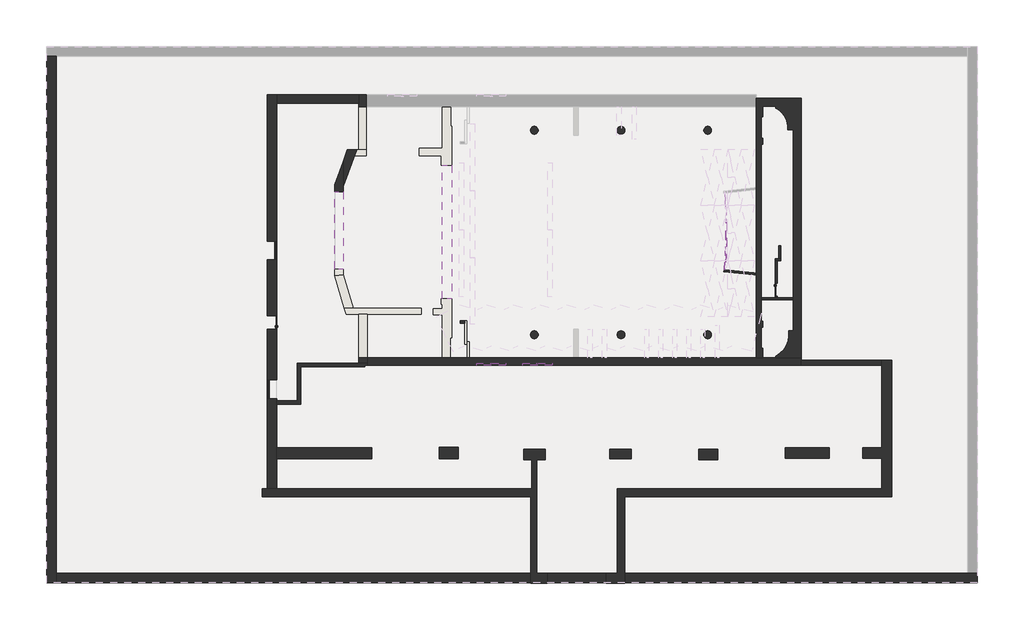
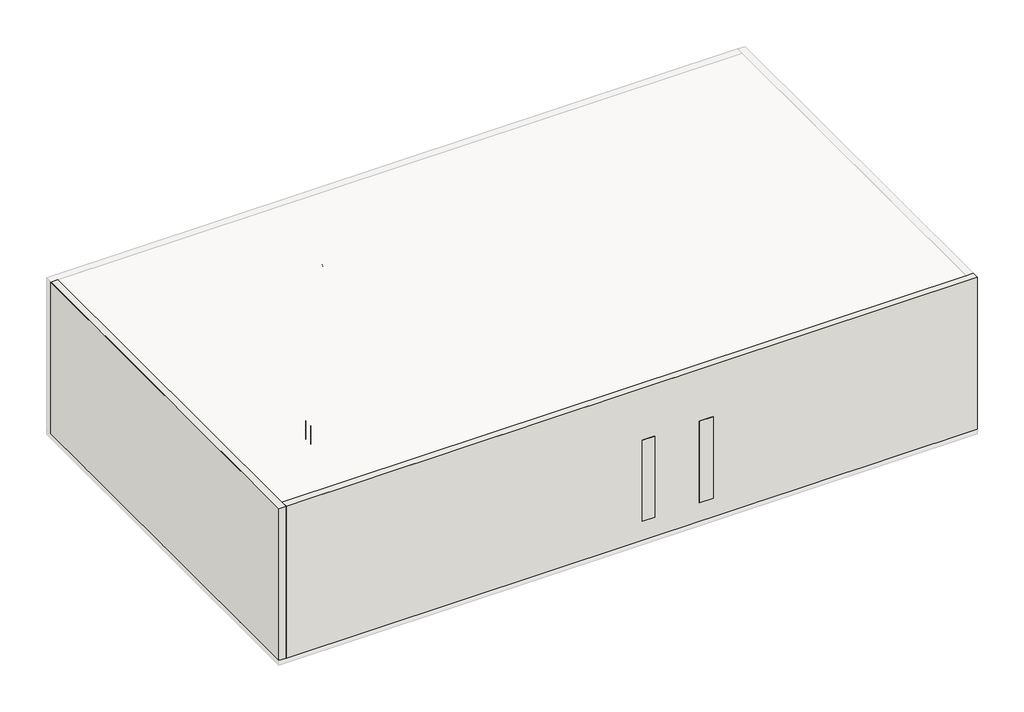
# One storey, part 1 of 2: 26 walls, 15 members, 6 doors, 5 plates.
"""IFC4 building model written with IfcOpenShell, lengths in millimetres."""

from ifc_helpers import new_model, si_unit, frame, origin, origin_with_axes, place, context, project, spatial, polyline, outline, extrude, faceted_brep, transform, mapped, element, save
from components import door_93136e83, door_cc279266, door_110_110_x_220_0e20b769, door_90_50_0fd4b594, door_90_50_461a16cf, rectangular_mullion_50mm_x_65mm_85f5c3ba, rectangular_mullion_50mm_x_65mm_dd78f4de, rectangular_mullion_50mm_x_65mm_ce025465, rectangular_mullion_50mm_x_65mm_8040be0b, rectangular_mullion_50mm_x_65mm_674574ef, rectangular_mullion_50mm_x_65mm_76db42fe, system_panel_glazed_0dd6046c, system_panel_glazed_ee4c52bc, system_panel_glazed_600cb2cb, system_panel_glazed_74924e97, system_panel_glazed_64a0f904, wall_78942bb0, walls_1_walls_1_f35c03d9, walls_3_walls_3_43b07a90

model = new_model("IFC4")

# Units and contexts
model_context = context("Model", 3, world=origin())
ifc_project = project(units=[si_unit("LENGTHUNIT", "METRE", prefix="MILLI")], contexts=[model_context])

# Site, building, storey
site = spatial("IfcSite", under=ifc_project)
building = spatial("IfcBuilding", under=site)
storey = spatial("IfcBuildingStorey", under=building, Name="0 NISKI PARTER", Elevation=-1240.0)

# Doors
placement = place(None, origin())
door_shape = door_93136e83(model_context)
element("IfcDoor", 1, ObjectType="DRZWI DO ZESTAWIENIA : Dw_biura_90x220cm", at=placement, inside=storey, context=model_context, shape_type="MappedRepresentation", body=[
    mapped(door_shape, transform((156105.6979089, 53115.8005963, -1240.0), x_axis=(0.0, -1.0, 0.0), y_axis=(1.0, 0.0, 0.0), z_axis=(0.0, 0.0, 1.0))),
])
door_2_shape = door_cc279266(model_context)
element("IfcDoor", 2, ObjectType="DRZWI DO ZESTAWIENIA : Dw_biura_90x220cm", at=placement, inside=storey, context=model_context, shape_type="MappedRepresentation", body=[
    mapped(door_2_shape, transform((118387.0479089, 50670.8005963, -1240.0), x_axis=(0.0, 1.0, 0.0), y_axis=(-1.0, 0.0, 0.0), z_axis=(0.0, 0.0, 1.0))),
])
door_110_110_x_220_shape = door_110_110_x_220_0e20b769(model_context)
element("IfcDoor", 3, ObjectType="Door_Matrix 70_Double_Veka_Double Glazing_Outward Opening_Frame 67mm : 110 + 110 X 220", at=placement, inside=storey, context=model_context, shape_type="MappedRepresentation", body=[
    mapped(door_110_110_x_220_shape, transform((134790.8729089, 47740.8005963, 0.0), x_axis=(-1.0, 0.0, 2.899180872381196e-11), y_axis=(0.0, -1.0, 0.0), z_axis=(0.0, 0.0, 1.0))),
])
element("IfcDoor", 4, ObjectType="Door_Matrix 70_Double_Veka_Double Glazing_Outward Opening_Frame 67mm : 110 + 110 X 220", at=placement, inside=storey, context=model_context, shape_type="MappedRepresentation", body=[
    mapped(door_110_110_x_220_shape, transform((138253.8729089, 47740.8005963, 0.0), x_axis=(-1.0, 0.0, 2.899180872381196e-11), y_axis=(0.0, -1.0, 0.0), z_axis=(0.0, 0.0, 1.0))),
])
door_90_50_shape = door_90_50_0fd4b594(model_context)
element("IfcDoor", 5, ObjectType="Door_Matrix 70_Double_Veka_Double Glazing_Outward Opening_Frame 67mm : 90 + 50", at=placement, inside=storey, context=model_context, shape_type="MappedRepresentation", body=[
    mapped(door_90_50_shape, transform((118383.8729089, 56065.8005963, -1240.0), x_axis=(0.0, 1.0, 0.0), y_axis=(-1.0, 0.0, 0.0), z_axis=(0.0, 0.0, 1.0))),
])
door_90_50_2_shape = door_90_50_461a16cf(model_context)
element("IfcDoor", 6, ObjectType="Door_Matrix 70_Double_Veka_Double Glazing_Outward Opening_Frame 67mm : 90 + 50", at=placement, inside=storey, context=model_context, shape_type="MappedRepresentation", body=[
    mapped(door_90_50_2_shape, transform((118383.8729089, 45670.8005963, -1240.0), x_axis=(0.0, 1.0, 0.0), y_axis=(-1.0, 0.0, 0.0), z_axis=(0.0, 0.0, 1.0))),
])

# Members
rectangular_mullion_50mm_x_65mm_shape = rectangular_mullion_50mm_x_65mm_85f5c3ba(model_context)
element("IfcMember", 7, ObjectType="Rectangular Mullion : 50mm x 65mm", at=placement, inside=storey, context=model_context, shape_type="MappedRepresentation", body=[
    mapped(rectangular_mullion_50mm_x_65mm_shape, transform((152343.4204401, 59271.064427, 8800.0), x_axis=(0.0, 0.0, 1.0), y_axis=(-0.996686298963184, -0.08134138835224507, 0.0), z_axis=(0.08134138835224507, -0.996686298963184, 0.0))),
])
rectangular_mullion_50mm_x_65mm_2_shape = rectangular_mullion_50mm_x_65mm_dd78f4de(model_context)
element("IfcMember", 8, ObjectType="Rectangular Mullion : 50mm x 65mm", at=placement, inside=storey, context=model_context, shape_type="MappedRepresentation", body=[
    mapped(rectangular_mullion_50mm_x_65mm_2_shape, transform((152382.5170965, 58218.1139875, 8800.0), x_axis=(0.0, 0.0, 1.0), y_axis=(-0.9993908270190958, -0.034899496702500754, 0.0), z_axis=(0.034899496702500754, -0.9993908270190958, 0.0))),
])
rectangular_mullion_50mm_x_65mm_3_shape = rectangular_mullion_50mm_x_65mm_ce025465(model_context)
element("IfcMember", 9, ObjectType="Rectangular Mullion : 50mm x 65mm", at=placement, inside=storey, context=model_context, shape_type="MappedRepresentation", body=[
    mapped(rectangular_mullion_50mm_x_65mm_3_shape, transform((152384.2620713, 56963.6598902, 8800.0), x_axis=(0.0, 0.0, 1.0), y_axis=(-1.0, 0.0, 0.0), z_axis=(0.0, -1.0, 0.0))),
])
element("IfcMember", 10, ObjectType="Rectangular Mullion : 50mm x 65mm", at=placement, inside=storey, context=model_context, shape_type="MappedRepresentation", body=[
    mapped(rectangular_mullion_50mm_x_65mm_3_shape, transform((152384.2620713, 58118.1444462, 3620.0), x_axis=(0.0, 0.0, -1.0), y_axis=(-1.0, 0.0, 0.0), z_axis=(0.0, 1.0, 0.0))),
])
rectangular_mullion_50mm_x_65mm_4_shape = rectangular_mullion_50mm_x_65mm_8040be0b(model_context)
element("IfcMember", 11, ObjectType="Rectangular Mullion : 50mm x 65mm", at=placement, inside=storey, context=model_context, shape_type="MappedRepresentation", body=[
    mapped(rectangular_mullion_50mm_x_65mm_4_shape, transform((152345.6712309, 55808.5628082, 8800.0), x_axis=(0.0, 0.0, 1.0), y_axis=(-0.9993908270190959, 0.03489949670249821, 0.0), z_axis=(-0.0348994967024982, -0.9993908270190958, 0.0))),
])
element("IfcMember", 12, ObjectType="Rectangular Mullion : 50mm x 65mm", at=placement, inside=storey, context=model_context, shape_type="MappedRepresentation", body=[
    mapped(rectangular_mullion_50mm_x_65mm_4_shape, transform((152382.5170965, 56863.6903488, 3620.0), x_axis=(0.0, 0.0, -1.0), y_axis=(-0.9993908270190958, 0.03489949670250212, 0.0), z_axis=(0.034899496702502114, 0.9993908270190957, 0.0))),
])
rectangular_mullion_50mm_x_65mm_5_shape = rectangular_mullion_50mm_x_65mm_674574ef(model_context)
element("IfcMember", 13, ObjectType="Rectangular Mullion : 50mm x 65mm", at=placement, inside=storey, context=model_context, shape_type="MappedRepresentation", body=[
    mapped(rectangular_mullion_50mm_x_65mm_5_shape, transform((152267.9302997, 54671.800459, 8800.0), x_axis=(0.0, 0.0, 1.0), y_axis=(-0.9975640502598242, 0.06975647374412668, 0.0), z_axis=(-0.06975647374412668, -0.9975640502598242, 0.0))),
])
element("IfcMember", 14, ObjectType="Rectangular Mullion : 50mm x 65mm", at=placement, inside=storey, context=model_context, shape_type="MappedRepresentation", body=[
    mapped(rectangular_mullion_50mm_x_65mm_5_shape, transform((152340.4384323, 55708.7150644, 3620.0), x_axis=(0.0, 0.0, -1.0), y_axis=(-0.9975640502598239, 0.06975647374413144, 0.0), z_axis=(0.06975647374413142, 0.9975640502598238, 0.0))),
])
rectangular_mullion_50mm_x_65mm_6_shape = rectangular_mullion_50mm_x_65mm_76db42fe(model_context)
element("IfcMember", 15, ObjectType="Rectangular Mullion : 50mm x 65mm", at=placement, inside=storey, context=model_context, shape_type="MappedRepresentation", body=[
    mapped(rectangular_mullion_50mm_x_65mm_6_shape, transform((152384.2620713, 58168.1444462, 3620.0), x_axis=(0.034899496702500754, -0.9993908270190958, 0.0), y_axis=(-0.9993908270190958, -0.034899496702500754, 0.0), z_axis=(0.0, 0.0, -1.0))),
])
element("IfcMember", 16, ObjectType="Rectangular Mullion : 50mm x 65mm", at=placement, inside=storey, context=model_context, shape_type="MappedRepresentation", body=[
    mapped(rectangular_mullion_50mm_x_65mm_6_shape, transform((152384.2620713, 56913.6598902, 3620.0), x_axis=(0.0, -1.0, 0.0), y_axis=(-1.0, 0.0, 0.0), z_axis=(0.0, 0.0, -1.0))),
])
element("IfcMember", 17, ObjectType="Rectangular Mullion : 50mm x 65mm", at=placement, inside=storey, context=model_context, shape_type="MappedRepresentation", body=[
    mapped(rectangular_mullion_50mm_x_65mm_6_shape, transform((152343.926256, 55758.5932669, 3620.0), x_axis=(-0.03489949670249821, -0.9993908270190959, 0.0), y_axis=(-0.9993908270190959, 0.03489949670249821, 0.0), z_axis=(0.0, 0.0, -1.0))),
])
element("IfcMember", 18, ObjectType="Rectangular Mullion : 50mm x 65mm", at=placement, inside=storey, context=model_context, shape_type="MappedRepresentation", body=[
    mapped(rectangular_mullion_50mm_x_65mm_6_shape, transform((152264.442476, 54621.9222565, 3620.0), x_axis=(-0.06975647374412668, -0.9975640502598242, 0.0), y_axis=(-0.9975640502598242, 0.06975647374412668, 0.0), z_axis=(0.0, 0.0, -1.0))),
])
element("IfcMember", 19, ObjectType="Rectangular Mullion : 50mm x 65mm", at=placement, inside=storey, context=model_context, shape_type="MappedRepresentation", body=[
    mapped(rectangular_mullion_50mm_x_65mm_6_shape, transform((152384.2620713, 58168.1444462, 8800.0), x_axis=(0.0, 1.0, 0.0), y_axis=(-1.0, 0.0, 0.0), z_axis=(0.0, 0.0, 1.0))),
])
element("IfcMember", 20, ObjectType="Rectangular Mullion : 50mm x 65mm", at=placement, inside=storey, context=model_context, shape_type="MappedRepresentation", body=[
    mapped(rectangular_mullion_50mm_x_65mm_6_shape, transform((152384.2620713, 56913.6598902, 8800.0), x_axis=(0.03489949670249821, 0.9993908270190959, 0.0), y_axis=(-0.9993908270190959, 0.03489949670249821, 0.0), z_axis=(0.0, 0.0, 1.0))),
])
element("IfcMember", 21, ObjectType="Rectangular Mullion : 50mm x 65mm", at=placement, inside=storey, context=model_context, shape_type="MappedRepresentation", body=[
    mapped(rectangular_mullion_50mm_x_65mm_6_shape, transform((152343.926256, 55758.5932669, 8800.0), x_axis=(0.06975647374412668, 0.9975640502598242, 0.0), y_axis=(-0.9975640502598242, 0.06975647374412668, 0.0), z_axis=(0.0, 0.0, 1.0))),
])

# Plates
system_panel_glazed_shape = system_panel_glazed_0dd6046c(model_context)
element("IfcPlate", 22, ObjectType="System Panel : Glazed", at=placement, inside=storey, context=model_context, shape_type="MappedRepresentation", body=[
    mapped(system_panel_glazed_shape, transform((152304.184366, 55190.2577617, 3670.0), x_axis=(-0.06975647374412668, -0.9975640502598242, 0.0), y_axis=(0.9975640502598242, -0.06975647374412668, 0.0), z_axis=(0.0, 0.0, 1.0))),
])
system_panel_glazed_2_shape = system_panel_glazed_ee4c52bc(model_context)
element("IfcPlate", 23, ObjectType="System Panel : Glazed", at=placement, inside=storey, context=model_context, shape_type="MappedRepresentation", body=[
    mapped(system_panel_glazed_2_shape, transform((152364.0941637, 56336.1265785, 3670.0), x_axis=(-0.03489949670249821, -0.9993908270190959, 0.0), y_axis=(0.9993908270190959, -0.03489949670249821, 0.0), z_axis=(0.0, 0.0, 1.0))),
])
system_panel_glazed_3_shape = system_panel_glazed_600cb2cb(model_context)
element("IfcPlate", 24, ObjectType="System Panel : Glazed", at=placement, inside=storey, context=model_context, shape_type="MappedRepresentation", body=[
    mapped(system_panel_glazed_3_shape, transform((152384.2620713, 57540.9021682, 3670.0), x_axis=(0.0, -1.0, 0.0), y_axis=(1.0, 0.0, 0.0), z_axis=(0.0, 0.0, 1.0))),
])
system_panel_glazed_4_shape = system_panel_glazed_74924e97(model_context)
element("IfcPlate", 25, ObjectType="System Panel : Glazed", at=placement, inside=storey, context=model_context, shape_type="MappedRepresentation", body=[
    mapped(system_panel_glazed_4_shape, transform((152365.8747904, 58694.6872791, 3670.0), x_axis=(0.034899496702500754, -0.9993908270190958, 0.0), y_axis=(0.9993908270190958, 0.034899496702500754, 0.0), z_axis=(0.0, 0.0, 1.0))),
])
system_panel_glazed_5_shape = system_panel_glazed_64a0f904(model_context)
element("IfcPlate", 26, ObjectType="System Panel : Glazed", at=placement, inside=storey, context=model_context, shape_type="MappedRepresentation", body=[
    mapped(system_panel_glazed_5_shape, transform((152301.0692518, 59789.9988828, 3670.0), x_axis=(0.08134138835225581, -0.9966862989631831, 0.0), y_axis=(0.9966862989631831, 0.08134138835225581, 0.0), z_axis=(0.0, 0.0, 1.0))),
])

# Walls
wall_shape = wall_78942bb0(model_context)
element("IfcWall", 27, ObjectType="SŁUPY : SŁUPY", at=placement, inside=storey, context=model_context, shape_type="MappedRepresentation", body=[
    mapped(wall_shape, transform((0.0, 0.0, 0.0), x_axis=(1.0, 0.0, 0.0), y_axis=(0.0, 1.0, 0.0), z_axis=(0.0, 0.0, 1.0))),
])
element("IfcWall", 28, ObjectType="SCN_15 cm", at=placement, inside=storey, context=model_context, shape_type="SweptSolid", body=[
    extrude(outline(polyline([(152221.6395041, 54626.294003), (154816.4935023, 54361.2646536), (154801.2523155, 54212.040975), (152206.3983174, 54477.0703245), (152221.6395041, 54626.294003)])), frame((0.0, 0.0, -1240.0), z_axis=(0.0, 0.0, 1.0), x_axis=(1.0, 0.0, 0.0)), (0.0, 0.0, 1.0), 10040.0),
])
element("IfcWall", 29, ObjectType="SCN_15 cm", at=placement, inside=storey, context=model_context, shape_type="SweptSolid", body=[
    extrude(outline(polyline([(49240.8005963, -1240.0), (47745.8005963, -1240.0), (47745.8005963, 8800.0), (49240.8005963, 8800.0), (49240.8005963, 0.0), (48015.8005963, 0.0), (48015.8005963, -500.0), (49240.8005963, -500.0), (49240.8005963, -1240.0)])), frame((133003.8729089, 0.0, 0.0), z_axis=(1.0, 0.0, 0.0), x_axis=(0.0, 1.0, 0.0)), (0.0, 0.0, 1.0), 150.0),
])
element("IfcWall", 30, ObjectType="SCN_15 cm", at=placement, inside=storey, context=model_context, shape_type="Brep", body=[
    faceted_brep([(132973.8729089, 49035.8005963, -1240.0), (132973.8729089, 50780.8005963, -1240.0), (132973.8729089, 50780.8005963, -500.0), (132973.8729089, 49035.8005963, -500.0), (132823.8729089, 50780.8005963, -1240.0), (132823.8729089, 50630.8005963, -1240.0), (132823.8729089, 49035.8005963, -1240.0), (132823.8729089, 49035.8005963, -500.0), (132823.8729089, 50780.8005963, -500.0)], [[[0, 1, 2, 3]], [[4, 5, 6, 7, 8]], [[1, 0, 6, 5, 4]], [[6, 0, 3, 7]], [[1, 4, 8, 2]], [[3, 2, 8, 7]]]),
    faceted_brep([(132973.8729089, 50780.8005963, 8800.0), (132973.8729089, 49035.8005963, 8800.0), (132973.8729089, 49035.8005963, 0.0), (132973.8729089, 50780.8005963, 0.0), (132823.8729089, 49035.8005963, 8800.0), (132823.8729089, 50630.8005963, 8800.0), (132823.8729089, 50780.8005963, 8800.0), (132823.8729089, 50780.8005963, 0.0), (132823.8729089, 49035.8005963, 0.0)], [[[0, 1, 2, 3]], [[4, 5, 6, 7, 8]], [[1, 0, 6, 5, 4]], [[1, 4, 8, 2]], [[6, 0, 3, 7]], [[3, 2, 8, 7]]]),
])
element("IfcWall", 31, ObjectType="SCN_15 cm", at=placement, inside=storey, context=model_context, shape_type="SweptSolid", body=[
    extrude(outline(polyline([(132463.8729089, 50780.8005963), (132823.8729089, 50780.8005963), (132823.8729089, 50630.8005963), (132463.8729089, 50630.8005963), (132463.8729089, 50780.8005963)])), frame((0.0, 0.0, -1240.0), z_axis=(0.0, 0.0, 1.0), x_axis=(1.0, 0.0, 0.0)), (0.0, 0.0, 1.0), 10040.0),
])
element("IfcWall", 32, ObjectType="SCN_15 cm", at=placement, inside=storey, context=model_context, shape_type="Brep", body=[
    faceted_brep([(154808.8729089, 52380.8005963, -1240.0), (157698.8729089, 52380.8005963, -1240.0), (157698.8729089, 52380.8005963, 8800.0), (154808.8729089, 52380.8005963, 8800.0), (154808.8729089, 52530.8005963, -1240.0), (154808.8729089, 52530.8005963, 8800.0), (156033.8729089, 52530.8005963, 8800.0), (156183.8729089, 52530.8005963, 8800.0), (157698.8729089, 52530.8005963, 8800.0), (157698.8729089, 52530.8005963, -1240.0), (156183.8729089, 52530.8005963, -1240.0), (156033.8729089, 52530.8005963, -1240.0)], [[[0, 1, 2, 3]], [[4, 5, 6, 7, 8, 9, 10, 11]], [[1, 0, 4, 11, 10, 9]], [[2, 1, 9, 8]], [[3, 2, 8, 7, 6, 5]], [[0, 3, 5, 4]]]),
])
element("IfcWall", 33, ObjectType="SCN_15 cm", at=placement, inside=storey, context=model_context, shape_type="SweptSolid", body=[
    extrude(outline(polyline([(52530.8005963, 8800.0), (55275.8005963, 8800.0), (55275.8005963, -1240.0), (53605.8005963, -1240.0), (53605.8005963, 985.0), (52625.8005963, 985.0), (52625.8005963, -1240.0), (52530.8005963, -1240.0), (52530.8005963, 8800.0)])), frame((156033.8729089, 0.0, 0.0), z_axis=(1.0, 0.0, 0.0), x_axis=(0.0, 1.0, 0.0)), (0.0, 0.0, 1.0), 150.0),
])
element("IfcWall", 34, ObjectType="SCN_15 cm", at=placement, inside=storey, context=model_context, shape_type="Brep", body=[
    faceted_brep([(156033.8729089, 55275.8005963, -1240.0), (156183.8729089, 55275.8005963, -1240.0), (156453.8729089, 55275.8005963, -1240.0), (156453.8729089, 55275.8005963, 8800.0), (156183.8729089, 55275.8005963, 8800.0), (156033.8729089, 55275.8005963, 8800.0), (156033.8729089, 55425.8005963, -1240.0), (156033.8729089, 55425.8005963, 8800.0), (156303.8729089, 55425.8005963, 8800.0), (156453.8729089, 55425.8005963, 8800.0), (156453.8729089, 55425.8005963, -1240.0), (156303.8729089, 55425.8005963, -1240.0)], [[[0, 1, 2, 3, 4, 5]], [[6, 7, 8, 9, 10, 11]], [[2, 1, 0, 6, 11, 10]], [[5, 4, 3, 9, 8, 7]], [[0, 5, 7, 6]], [[3, 2, 10, 9]]]),
])
element("IfcWall", 35, ObjectType="SCN_15 cm", at=placement, inside=storey, context=model_context, shape_type="SweptSolid", body=[
    extrude(outline(polyline([(156453.8729089, 56425.8005963), (156453.8729089, 55425.8005963), (156303.8729089, 55425.8005963), (156303.8729089, 56425.8005963), (156453.8729089, 56425.8005963)])), frame((0.0, 0.0, -1240.0), z_axis=(0.0, 0.0, 1.0), x_axis=(1.0, 0.0, 0.0)), (0.0, 0.0, 1.0), 10040.0),
])
element("IfcWall", 36, ObjectType="SCN_44 cm", at=placement, inside=storey, context=model_context, shape_type="Brep", body=[
    faceted_brep([(129555.4002596, 51725.8005963, -1240.0), (124463.4463817, 51725.8005963, -1240.0), (123795.2039669, 51725.8005963, -1240.0), (123795.2039669, 51725.8005963, -500.0), (124463.4463817, 51725.8005963, -500.0), (129555.4002596, 51725.8005963, -500.0), (123927.3541376, 51285.8005963, -1240.0), (124863.8729089, 51285.8005963, -1240.0), (125503.8729089, 51285.8005963, -1240.0), (129555.4002596, 51285.8005963, -1240.0), (129555.4002596, 51285.8005963, -500.0), (124863.8729089, 51285.8005963, -500.0), (123927.3541376, 51285.8005963, -500.0)], [[[0, 1, 2, 3, 4, 5]], [[6, 7, 8, 9, 10, 11, 12]], [[2, 1, 0, 9, 8, 7, 6]], [[9, 0, 5, 10]], [[2, 6, 12, 3]], [[5, 4, 3, 12, 11, 10]]]),
    faceted_brep([(123795.2039669, 51725.8005963, 12660.0), (124463.4463817, 51725.8005963, 12660.0), (129555.4002596, 51725.8005963, 12660.0), (129555.4002596, 51725.8005963, 0.0), (124463.4463817, 51725.8005963, 0.0), (123795.2039669, 51725.8005963, 0.0), (129555.4002596, 51285.8005963, 12660.0), (125503.8729089, 51285.8005963, 12660.0), (124863.8729089, 51285.8005963, 12660.0), (123927.3541376, 51285.8005963, 12660.0), (123927.3541376, 51285.8005963, 0.0), (124863.8729089, 51285.8005963, 0.0), (129555.4002596, 51285.8005963, 0.0)], [[[0, 1, 2, 3, 4, 5]], [[6, 7, 8, 9, 10, 11, 12]], [[2, 1, 0, 9, 8, 7, 6]], [[2, 6, 12, 3]], [[9, 0, 5, 10]], [[5, 4, 3, 12, 11, 10]]]),
])
element("IfcWall", 37, ObjectType="SCN_44 cm", at=placement, inside=storey, context=model_context, shape_type="Brep", body=[
    faceted_brep([(125453.8729089, 63590.8005963, -1240.0), (124863.8729089, 63590.8005963, -1240.0), (124715.5721701, 63590.8005963, -1240.0), (124715.5721701, 63590.8005963, -500.0), (124863.8729089, 63590.8005963, -500.0), (125453.8729089, 63590.8005963, -500.0), (124552.2256398, 63150.8005963, -1240.0), (125453.8729089, 63150.8005963, -1240.0), (125453.8729089, 63150.8005963, -500.0), (124552.2256398, 63150.8005963, -500.0)], [[[0, 1, 2, 3, 4, 5]], [[6, 7, 8, 9]], [[2, 1, 0, 7, 6]], [[2, 6, 9, 3]], [[7, 0, 5, 8]], [[4, 3, 9, 8, 5]]]),
    faceted_brep([(124715.5721701, 63590.8005963, 12660.0), (124863.8729089, 63590.8005963, 12660.0), (125453.8729089, 63590.8005963, 12660.0), (125453.8729089, 63590.8005963, 0.0), (124863.8729089, 63590.8005963, 0.0), (124715.5721701, 63590.8005963, 0.0), (125453.8729089, 63150.8005963, 12660.0), (124552.2256398, 63150.8005963, 12660.0), (124552.2256398, 63150.8005963, 0.0), (125453.8729089, 63150.8005963, 0.0)], [[[0, 1, 2, 3, 4, 5]], [[6, 7, 8, 9]], [[2, 1, 0, 7, 6]], [[7, 0, 5, 8]], [[2, 6, 9, 3]], [[5, 4, 3, 9, 8]]]),
])
element("IfcWall", 38, ObjectType="SCN_55 cm", at=placement, inside=storey, context=model_context, shape_type="SweptSolid", body=[
    extrude(outline(polyline([(-1239.9999992, 125503.8729089), (-1240.0000001, 157993.8729089), (10759.9999991, 157993.8729089), (10760.0, 125503.8729089), (-1239.9999992, 125503.8729089)]), holes=[polyline([(0.0, 133690.8729089), (2100.0, 133690.8729089), (2100.0, 135890.8729089), (0.0, 135890.8729089), (0.0, 133690.8729089)]), polyline([(0.0, 137153.8729089), (2100.0, 137153.8729089), (2100.0, 139353.8729089), (0.0, 139353.8729089), (0.0, 137153.8729089)])]), frame((0.0, 47465.8005963, 0.0), z_axis=(0.0, 1.0, 0.0), x_axis=(0.0, 0.0, 1.0)), (0.0, 0.0, 1.0), 550.0),
])
element("IfcWall", 39, ObjectType="SCN_59 cm", at=placement, inside=storey, context=model_context, shape_type="Brep", body=[
    faceted_brep([(125453.8729089, 63590.8005963, -1240.0), (125453.8729089, 66815.8005963, -1240.0), (125453.8729089, 67725.8005963, -1240.0), (125453.8729089, 67725.8005963, 10760.0), (125453.8729089, 67725.8005963, 12660.0), (125453.8729089, 63590.8005963, 12660.0), (125453.8729089, 63590.8005963, 0.0), (125453.8729089, 66815.8005963, 0.0), (125453.8729089, 66815.8005963, -500.0), (125453.8729089, 63590.8005963, -500.0), (124863.8729089, 67725.8005963, -1240.0), (124863.8729089, 67725.4143254, -1240.0), (124863.8729089, 67085.4143254, -1240.0), (124863.8729089, 63590.8005963, -1240.0), (124863.8729089, 63590.8005963, -500.0), (124863.8729089, 66815.8005963, -500.0), (124863.8729089, 66815.8005963, 0.0), (124863.8729089, 63590.8005963, 0.0), (124863.8729089, 63590.8005963, 12660.0), (124863.8729089, 67725.8005963, 12660.0)], [[[0, 1, 2, 3, 4, 5, 6, 7, 8, 9]], [[10, 11, 12, 13, 14, 15, 16, 17, 18, 19]], [[2, 1, 0, 13, 12, 11, 10]], [[5, 4, 19, 18]], [[5, 18, 17, 6]], [[13, 0, 9, 14]], [[8, 15, 14, 9]], [[16, 7, 6, 17]], [[15, 8, 7, 16]], [[2, 10, 19, 4, 3]]]),
])
element("IfcWall", 40, ObjectType="SCN_64 cm", at=placement, inside=storey, context=model_context, shape_type="SweptSolid", body=[
    extrude(outline(polyline([(123795.2039669, 51725.8005963), (123063.8729089, 54160.8005963), (123703.8729089, 54254.8349999), (124463.4463817, 51725.8005963), (123795.2039669, 51725.8005963)])), frame((0.0, 0.0, -1240.0), z_axis=(0.0, 0.0, 1.0), x_axis=(1.0, 0.0, 0.0)), (0.0, 0.0, 1.0), 740.0),
    extrude(outline(polyline([(123795.2039669, 51725.8005963), (123063.8729089, 54160.8005963), (123703.8729089, 54254.8349999), (124463.4463817, 51725.8005963), (123795.2039669, 51725.8005963)])), origin_with_axes(), (0.0, 0.0, 1.0), 12660.0),
])
element("IfcWall", 41, ObjectType="SCN_64 cm", at=placement, inside=storey, context=model_context, shape_type="SweptSolid", body=[
    extrude(outline(polyline([(123063.8729089, 54160.8005963), (123063.8729089, 54669.8605963), (123703.8729089, 54669.8605963), (123703.8729089, 54254.8349999), (123063.8729089, 54160.8005963)])), frame((0.0, 0.0, -1240.0), z_axis=(0.0, 0.0, 1.0), x_axis=(1.0, 0.0, 0.0)), (0.0, 0.0, 1.0), 740.0),
    extrude(outline(polyline([(123063.8729089, 54160.8005963), (123063.8729089, 54669.8605963), (123703.8729089, 54669.8605963), (123703.8729089, 54254.8349999), (123063.8729089, 54160.8005963)])), origin_with_axes(), (0.0, 0.0, 1.0), 12660.0),
])
element("IfcWall", 42, ObjectType="SCN_64 cm", at=placement, inside=storey, context=model_context, shape_type="Brep", body=[
    faceted_brep([(123703.8729089, 60465.6268554, -1240.0), (123703.8729089, 60865.6268554, -1240.0), (123703.8729089, 62704.5333783, -1240.0), (123703.8729089, 62704.5333783, 12660.0), (123703.8729089, 60865.6268554, 12660.0), (123703.8729089, 60465.6268554, 12660.0), (123063.8729089, 60465.6268554, -1240.0), (123063.8729089, 60465.6268554, 12660.0), (123063.8729089, 60980.5910359, 12660.0), (123063.8729089, 60980.5910359, -1240.0)], [[[0, 1, 2, 3, 4, 5]], [[6, 7, 8, 9]], [[2, 1, 0, 6, 9]], [[5, 4, 3, 8, 7]], [[0, 5, 7, 6]], [[3, 2, 9, 8]]]),
])
element("IfcWall", 43, ObjectType="SCN_64 cm", at=placement, inside=storey, context=model_context, shape_type="Brep", body=[
    faceted_brep([(123703.8729089, 60865.6268554, -1240.0), (124552.2256398, 63150.8005963, -1240.0), (124715.5721701, 63590.8005963, -1240.0), (124715.5721701, 63590.8005963, -500.0), (124715.5721701, 63590.8005963, 0.0), (124715.5721701, 63590.8005963, 12660.0), (124552.2256398, 63150.8005963, 12660.0), (123703.8729089, 60865.6268554, 12660.0), (123703.8729089, 62704.5333783, -1240.0), (123703.8729089, 62704.5333783, 12660.0), (124032.8926247, 63590.8005963, 12660.0), (124032.8926247, 63590.8005963, -1240.0)], [[[0, 1, 2, 3, 4, 5, 6, 7]], [[8, 9, 10, 11]], [[2, 1, 0, 8, 11]], [[7, 6, 5, 10, 9]], [[0, 7, 9, 8]], [[5, 4, 3, 2, 11, 10]]]),
])
element("IfcWall", 44, ObjectType="SCN_64 cm", at=placement, inside=storey, context=model_context, shape_type="SweptSolid", body=[
    extrude(outline(polyline([(123063.8729089, 54669.8605963), (123063.8729089, 60465.6268554), (123703.8729089, 60465.6268554), (123703.8729089, 54669.8605963), (123063.8729089, 54669.8605963)])), frame((0.0, 0.0, 5001.2), z_axis=(0.0, 0.0, 1.0), x_axis=(1.0, 0.0, 0.0)), (0.0, 0.0, 1.0), 7658.8),
])
element("IfcWall", 45, ObjectType="SCN_64 cm", at=placement, inside=storey, context=model_context, shape_type="SweptSolid", body=[
    extrude(outline(polyline([(51285.8005963, -1240.0), (47605.8005963, -1240.0), (47605.8005963, 12660.0), (51285.8005963, 12660.0), (51285.8005963, 0.0), (48015.8005963, 0.0), (48015.8005963, -500.0), (51285.8005963, -500.0), (51285.8005963, -1240.0)])), frame((124863.8729089, 0.0, 0.0), z_axis=(1.0, 0.0, 0.0), x_axis=(0.0, 1.0, 0.0)), (0.0, 0.0, 1.0), 640.0),
])
element("IfcWall", 46, ObjectType="SCN_64 cm", at=placement, inside=storey, context=model_context, shape_type="SweptSolid", body=[
    extrude(outline(polyline([(118743.8729089, 67725.4143254), (124863.8729089, 67725.4143254), (124863.8729089, 67085.4143254), (118743.8729089, 67085.4143254), (118743.8729089, 67725.4143254)])), frame((0.0, 0.0, -1240.0), z_axis=(0.0, 0.0, 1.0), x_axis=(1.0, 0.0, 0.0)), (0.0, 0.0, 1.0), 8560.0),
])
element("IfcWall", 47, ObjectType="SCN_72 cm", at=placement, inside=storey, context=model_context, shape_type="Brep", body=[
    faceted_brep([(118023.8729089, 38235.8005963, -1240.0), (118023.8729089, 38235.8005963, 12660.0), (118023.8729089, 67725.4143254, 12660.0), (118023.8729089, 67725.4143254, -1240.0), (118023.8729089, 56765.8005963, -1240.0), (118023.8729089, 56765.8005963, 860.0), (118023.8729089, 55365.8005963, 860.0), (118023.8729089, 55365.8005963, -1240.0), (118023.8729089, 51160.8005963, -1240.0), (118023.8729089, 51160.8005963, 985.0), (118023.8729089, 50180.8005963, 985.0), (118023.8729089, 50180.8005963, -1240.0), (118023.8729089, 46370.8005963, -1240.0), (118023.8729089, 46370.8005963, 860.0), (118023.8729089, 44970.8005963, 860.0), (118023.8729089, 44970.8005963, -1240.0), (118743.8729089, 38235.8005963, 12660.0), (118743.8729089, 38235.8005963, -1240.0), (118743.8729089, 44970.8005963, -1240.0), (118743.8729089, 44970.8005963, 860.0), (118743.8729089, 46370.8005963, 860.0), (118743.8729089, 46370.8005963, -1240.0), (118743.8729089, 50180.8005963, -1240.0), (118743.8729089, 50180.8005963, 985.0), (118743.8729089, 51160.8005963, 985.0), (118743.8729089, 51160.8005963, -1240.0), (118743.8729089, 55365.8005963, -1240.0), (118743.8729089, 55365.8005963, 860.0), (118743.8729089, 56765.8005963, 860.0), (118743.8729089, 56765.8005963, -1240.0), (118743.8729089, 67085.4143254, -1240.0), (118743.8729089, 67725.4143254, -1240.0), (118743.8729089, 67725.4143254, 7320.0), (118743.8729089, 67725.4143254, 12660.0)], [[[0, 1, 2, 3, 4, 5, 6, 7, 8, 9, 10, 11, 12, 13, 14, 15]], [[16, 17, 18, 19, 20, 21, 22, 23, 24, 25, 26, 27, 28, 29, 30, 31, 32, 33]], [[17, 0, 15, 18]], [[4, 3, 31, 30, 29]], [[7, 26, 25, 8]], [[21, 12, 11, 22]], [[1, 0, 17, 16]], [[2, 1, 16, 33]], [[5, 4, 29, 28]], [[6, 5, 28, 27]], [[7, 6, 27, 26]], [[20, 13, 12, 21]], [[13, 20, 19, 14]], [[14, 19, 18, 15]], [[24, 9, 8, 25]], [[9, 24, 23, 10]], [[10, 23, 22, 11]], [[3, 2, 33, 32, 31]]]),
])
element("IfcWall", 48, ObjectType="SCN_72 cm", at=placement, inside=storey, context=model_context, shape_type="SweptSolid", body=[
    extrude(outline(polyline([(131853.8729089, 62435.8005963), (131853.8729089, 52445.8005963), (131133.8729089, 52445.8005963), (131133.8729089, 62435.8005963), (131853.8729089, 62435.8005963)])), frame((0.0, 0.0, 5001.2), z_axis=(0.0, 0.0, 1.0), x_axis=(1.0, 0.0, 0.0)), (0.0, 0.0, 1.0), 7658.8),
])
element("IfcWall", 49, ObjectType="SCN_72 cm", at=placement, inside=storey, context=model_context, shape_type="Brep", body=[
    faceted_brep([(102233.8729089, 31195.8005963, -3239.9999999), (102233.8729089, 31915.8005963, -3239.9999999), (102233.8729089, 70595.8005963, -3239.9999999), (102233.8729089, 70595.8005963, 12760.0000001), (102233.8729089, 31915.8005963, 12760.0000001), (102233.8729089, 31195.8005963, 12760.0000001), (101513.8729089, 31195.8005963, -3239.9999999), (101513.8729089, 31195.8005963, 12760.0000001), (101513.8729089, 70595.8005963, 12760.0000001), (101513.8729089, 70595.8005963, -3239.9999999)], [[[0, 1, 2, 3, 4, 5]], [[6, 7, 8, 9]], [[2, 1, 0, 6, 9]], [[5, 4, 3, 8, 7]], [[0, 5, 7, 6]], [[3, 2, 9, 8]]]),
])
element("IfcWall", 50, ObjectType="SCN_72 cm", at=placement, inside=storey, context=model_context, shape_type="Brep", body=[
    faceted_brep([(171173.8729089, 31915.8005963, -3239.9999999), (170453.8729089, 31915.8005963, -3239.9999999), (102233.8729089, 31915.8005963, -3239.9999999), (102233.8729089, 31915.8005963, 12760.0000001), (170453.8729089, 31915.8005963, 12760.0000001), (171173.8729089, 31915.8005963, 12760.0000001), (171173.8729089, 31195.8005963, -3239.9999999), (171173.8729089, 31195.8005963, 12760.0000001), (102233.8729089, 31195.8005963, 12760.0000001), (102233.8729089, 31195.8005963, -3239.9999999)], [[[0, 1, 2, 3, 4, 5]], [[6, 7, 8, 9]], [[2, 1, 0, 6, 9]], [[5, 4, 3, 8, 7]], [[0, 5, 7, 6]], [[3, 2, 9, 8]]]),
])
walls_1_walls_1_shape = walls_1_walls_1_f35c03d9(model_context)
element("IfcWall", 51, ObjectType="Walls 1 : Walls 1", at=placement, inside=storey, context=model_context, shape_type="MappedRepresentation", body=[
    mapped(walls_1_walls_1_shape, transform((0.0, 0.0, 0.0), x_axis=(1.0, 0.0, 0.0), y_axis=(0.0, 1.0, 0.0), z_axis=(0.0, 0.0, 1.0))),
])
walls_3_walls_3_shape = walls_3_walls_3_43b07a90(model_context)
element("IfcWall", 52, ObjectType="Walls 3 : Walls 3", at=placement, inside=storey, context=model_context, shape_type="MappedRepresentation", body=[
    mapped(walls_3_walls_3_shape, transform((0.0, 0.0, 0.0), x_axis=(1.0, 0.0, 0.0), y_axis=(0.0, 1.0, 0.0), z_axis=(0.0, 0.0, 1.0))),
])

save(model, "model.ifc")
